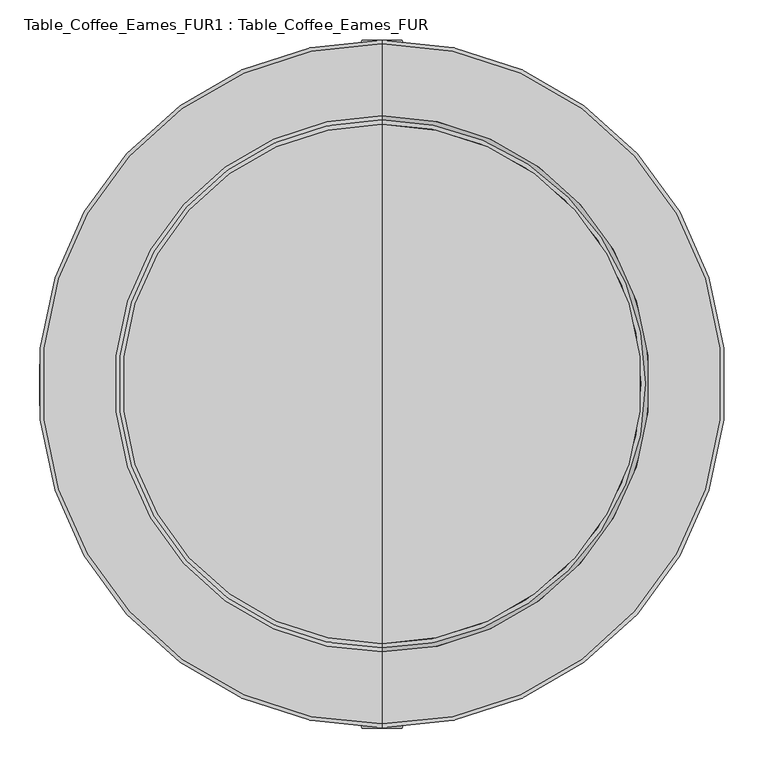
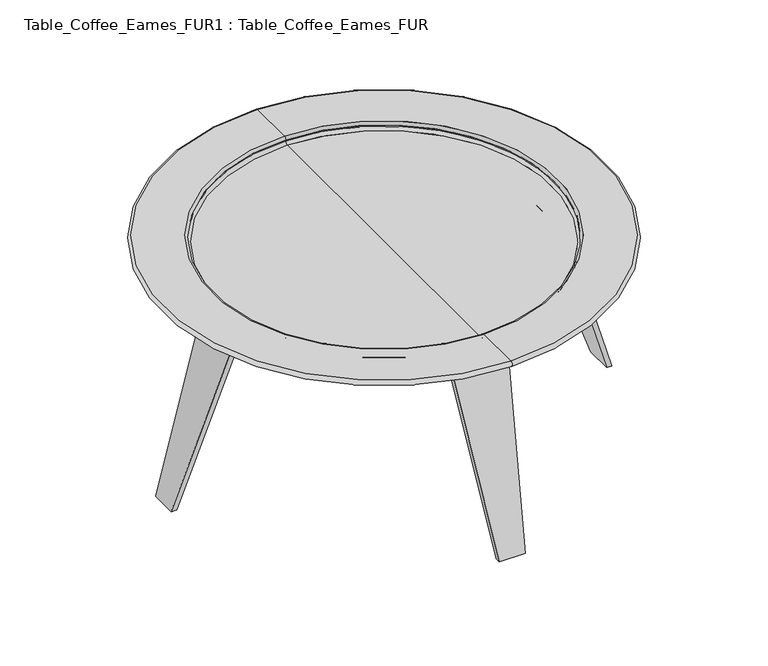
"""IFC4 building model written with IfcOpenShell, lengths in millimetres: furniture geometry, Table_Coffee_Eames_FUR1 : Table_Coffee_Eames_FUR."""

import ifcopenshell
import ifcopenshell.guid

model = None  # the IFC model being written
_history = None  # IfcOwnerHistory: only IFC2X3 demands one
_inside = {}  # id of a spatial element -> (the spatial element, [elements in it])
_under = {}  # id of a project, library or spatial element -> (it, [spatial elements below it])
_declared = {}  # id of a project -> (the project, [libraries it declares])
_typed = {}  # id of a type object -> (the type object, [elements of that type])
_made_of = {}  # id of a material, layer set ... -> (it, [elements and type objects made of it])


def new_model(schema):
    """Start an empty IFC model of exactly this schema.

    Asked for "IFC4X3", IfcOpenShell would pick the latest addendum, in which some entities
    have other attributes; the version numbers below select the first issue.
    IFC2X3 requires an IfcOwnerHistory on every rooted entity: one is made here for all.
    """
    global model, _history
    if schema == "IFC4X3":
        model = ifcopenshell.file(schema_version=(4, 3, 0, 0))
    else:
        model = ifcopenshell.file(schema=schema)
    _inside.clear()
    _under.clear()
    _declared.clear()
    _typed.clear()
    _made_of.clear()
    _history = None
    if model.schema == "IFC2X3":
        org = make("IfcOrganization", Name="unknown")
        user = make(
            "IfcPersonAndOrganization",
            ThePerson=make("IfcPerson", FamilyName="unknown"),
            TheOrganization=org,
        )
        app = make(
            "IfcApplication",
            ApplicationDeveloper=org,
            Version="unknown",
            ApplicationFullName="unknown",
            ApplicationIdentifier="unknown",
        )
        _history = make(
            "IfcOwnerHistory",
            OwningUser=user,
            OwningApplication=app,
            ChangeAction="ADDED",
            CreationDate=0,
        )
    return model


def make(cls, **values):
    """One entity of the class cls with the attributes given. An attribute that is None is left unset."""
    return model.create_entity(
        cls, **{name: value for name, value in values.items() if value is not None}
    )


def rooted(cls, **values):
    """An entity with a GlobalId (a new one), such as an element, a storey or a relation."""
    return make(cls, GlobalId=ifcopenshell.guid.new(), OwnerHistory=_history, **values)


def si_unit(unit_type, name, prefix=None):
    """IfcSIUnit, for example si_unit("LENGTHUNIT", "METRE", prefix="MILLI")."""
    return make("IfcSIUnit", UnitType=unit_type, Prefix=prefix, Name=name)


def assignment(units):
    """IfcUnitAssignment: the units of a project."""
    return None if units is None else make("IfcUnitAssignment", Units=units)


def point(xyz):
    """IfcCartesianPoint."""
    return None if xyz is None else make("IfcCartesianPoint", Coordinates=xyz)


def direction(xyz):
    """IfcDirection."""
    return None if xyz is None else make("IfcDirection", DirectionRatios=xyz)


def frame(location, z_axis=None, x_axis=None):
    """IfcAxis2Placement3D, a coordinate frame: its origin and axes. An axis left out is left unset."""
    return make(
        "IfcAxis2Placement3D",
        Location=point(location),
        Axis=direction(z_axis),
        RefDirection=direction(x_axis),
    )


def origin():
    """The frame at (0, 0, 0) with its axes left unset."""
    return frame((0.0, 0.0, 0.0))


def place(relative_to, where):
    """IfcLocalPlacement: puts the frame where relative to a parent placement (None: the world)."""
    return make(
        "IfcLocalPlacement", PlacementRelTo=relative_to, RelativePlacement=where
    )


def context(
    kind, dimensions, precision=None, world=None, true_north=None, identifier=None
):
    """IfcGeometricRepresentationContext, for example the 3D "Model" context."""
    return make(
        "IfcGeometricRepresentationContext",
        ContextIdentifier=identifier,
        ContextType=kind,
        CoordinateSpaceDimension=dimensions,
        Precision=precision,
        WorldCoordinateSystem=world,
        TrueNorth=true_north,
    )


def project(units=None, contexts=None):
    """IfcProject with its units and contexts."""
    return rooted(
        "IfcProject",
        Name="project",
        RepresentationContexts=contexts,
        UnitsInContext=assignment(units),
    )


def spatial(cls, under=None, at=None, **own):
    """A site, building, storey or space (cls), placed at a placement, below another one or the project."""
    s = rooted(cls, ObjectPlacement=at, **own)
    if under is not None:
        _under.setdefault(under.id(), (under, []))[1].append(s)
    return s


def polyline(points):
    """IfcPolyline through the points."""
    return make("IfcPolyline", Points=[point(p) for p in points])


def circle_curve(where, radius):
    """IfcCircle in the frame where."""
    return make("IfcCircle", Position=where, Radius=radius)


def ellipse_curve(where, semi_axis1, semi_axis2):
    """IfcEllipse in the frame where."""
    return make(
        "IfcEllipse", Position=where, SemiAxis1=semi_axis1, SemiAxis2=semi_axis2
    )


def trimmed(basis, trim1, trim2, sense, master):
    """IfcTrimmedCurve: the piece of a basis curve between two trims."""
    return make(
        "IfcTrimmedCurve",
        BasisCurve=basis,
        Trim1=trim1,
        Trim2=trim2,
        SenseAgreement=sense,
        MasterRepresentation=master,
    )


def shape(context_of_items, identifier, shape_type, items):
    """IfcShapeRepresentation: the items that make up one representation, for example the "Body"."""
    return make(
        "IfcShapeRepresentation",
        ContextOfItems=context_of_items,
        RepresentationIdentifier=identifier,
        RepresentationType=shape_type,
        Items=items,
    )


def source(mapping_origin, context_of_items, identifier, shape_type, items):
    """IfcRepresentationMap: a shape defined once, which mapped items show again and again."""
    return make(
        "IfcRepresentationMap",
        MappingOrigin=mapping_origin,
        MappedRepresentation=shape(context_of_items, identifier, shape_type, items),
    )


def transform(
    local_origin,
    x_axis=None,
    y_axis=None,
    z_axis=None,
    scale=None,
    scale2=None,
    scale3=None,
    uniform=True,
):
    """IfcCartesianTransformationOperator3D, or its non-uniform kind. x_axis, y_axis, z_axis: its Axis1, 2, 3."""
    if uniform:
        return make(
            "IfcCartesianTransformationOperator3D",
            Axis1=direction(x_axis),
            Axis2=direction(y_axis),
            LocalOrigin=point(local_origin),
            Scale=scale,
            Axis3=direction(z_axis),
        )
    return make(
        "IfcCartesianTransformationOperator3DnonUniform",
        Axis1=direction(x_axis),
        Axis2=direction(y_axis),
        LocalOrigin=point(local_origin),
        Scale=scale,
        Axis3=direction(z_axis),
        Scale2=scale2,
        Scale3=scale3,
    )


def mapped(mapping_source, mapping_target):
    """IfcMappedItem: shows the shape of a source again, moved by a transform."""
    return make(
        "IfcMappedItem", MappingSource=mapping_source, MappingTarget=mapping_target
    )


def made_of(thing, what):
    """Note that an element or type object is made of a material, layer set ...; save() writes the relation."""
    if what is not None:
        _made_of.setdefault(what.id(), (what, []))[1].append(thing)
    return thing


def element(
    cls,
    number,
    at=None,
    inside=None,
    cuts=None,
    type_object=None,
    material=None,
    context=None,
    identifier="Body",
    shape_type=None,
    held_by="IfcProductDefinitionShape",
    body=None,
    shapes=None,
    **own,
):
    """One element of the class cls, such as IfcWall. Its Tag is "e" and its number.

    at: its placement. inside: the storey or other place that contains it. cuts: it is an
    opening in that element (IfcRelVoidsElement). A single representation is given by context,
    identifier, shape_type and body (its items); several are given by shapes. held_by: the class
    of the entity that holds the representations. save() writes the other relations.
    """
    e = rooted(cls, Tag="e%d" % number, ObjectPlacement=at, **own)
    if body is not None:
        shapes = [shape(context, identifier, shape_type, body)]
    if shapes is not None:
        e.Representation = make(held_by, Representations=shapes)
    if inside is not None:
        _inside.setdefault(inside.id(), (inside, []))[1].append(e)
    if cuts is not None:
        rooted(
            "IfcRelVoidsElement", RelatingBuildingElement=cuts, RelatedOpeningElement=e
        )
    if type_object is not None:
        _typed.setdefault(type_object.id(), (type_object, []))[1].append(e)
    return made_of(e, material)


def aggregate(whole, parts):
    """IfcRelAggregates: a whole, such as a stair, and the parts it consists of."""
    return rooted("IfcRelAggregates", RelatingObject=whole, RelatedObjects=parts)


def save(model, path):
    """Write the relations noted so far, then the file.

    IfcRelAggregates (storeys below a building ...), IfcRelContainedInSpatialStructure (elements
    in a storey), IfcRelDefinesByType, IfcRelAssociatesMaterial and IfcRelDeclares: one each for
    every whole, place, type object, material and project.
    """
    for whole, parts in _under.values():
        aggregate(whole, parts)
    for where, things in _inside.values():
        rooted(
            "IfcRelContainedInSpatialStructure",
            RelatedElements=things,
            RelatingStructure=where,
        )
    for kind, things in _typed.values():
        rooted("IfcRelDefinesByType", RelatedObjects=things, RelatingType=kind)
    for what, things in _made_of.values():
        rooted("IfcRelAssociatesMaterial", RelatedObjects=things, RelatingMaterial=what)
    for by, libraries in _declared.values():
        rooted("IfcRelDeclares", RelatingContext=by, RelatedDefinitions=libraries)
    model.write(path)


def plane_surface(at):
    """IfcPlane: the flat surface through the origin of the frame at, square to its z axis."""
    return make("IfcPlane", Position=at)


def cylinder_surface(at, radius):
    """IfcCylindricalSurface: all points at the distance radius from the z axis of the frame at."""
    return make("IfcCylindricalSurface", Position=at, Radius=radius)


def revolved_surface(curve, axis_point, axis_direction):
    """IfcSurfaceOfRevolution: the curve turned about the line through axis_point along axis_direction."""
    return make(
        "IfcSurfaceOfRevolution",
        SweptCurve=make("IfcArbitraryOpenProfileDef", ProfileType="CURVE", Curve=curve),
        AxisPosition=make("IfcAxis1Placement", Location=point(axis_point), Axis=direction(axis_direction)),
    )


def advanced_brep(points, edges, surfaces, faces):
    """IfcAdvancedBrep: a solid bounded by faces that lie on surfaces and meet in shared edges.

    An edge is (start, end): straight between two places in points (the first is 0);
    or (start, end, curve); or (start, end, curve, False) where it runs against its curve.
    A face is (place in surfaces, loops), or (place, loops, False) where it looks against
    its surface's normal. A loop lists edges by number (the first is 1), with a minus sign
    where the edge is run from its end to its start. The first loop is the outer one.
    """
    corners = [point(p) for p in points]
    vertices = [make("IfcVertexPoint", VertexGeometry=c) for c in corners]
    made = []
    for start, end, *more in edges:
        made.append(
            make(
                "IfcEdgeCurve",
                EdgeStart=vertices[start],
                EdgeEnd=vertices[end],
                EdgeGeometry=more[0] if more else make("IfcPolyline", Points=[corners[start], corners[end]]),
                SameSense=more[1] if len(more) > 1 else True,
            )
        )
    hull = []
    for where, loops, *sense in faces:
        bounds = []
        for j, loop in enumerate(loops):
            ring = [make("IfcOrientedEdge", EdgeElement=made[abs(k) - 1], Orientation=k > 0) for k in loop]
            bounds.append(
                make(
                    "IfcFaceOuterBound" if j == 0 else "IfcFaceBound",
                    Bound=make("IfcEdgeLoop", EdgeList=ring),
                    Orientation=True,
                )
            )
        hull.append(make("IfcAdvancedFace", Bounds=bounds, FaceSurface=surfaces[where], SameSense=sense[0] if sense else True))
    return make("IfcAdvancedBrep", Outer=make("IfcClosedShell", CfsFaces=hull))


def table_coffee_eames_fur1_table_coffee_eames_fur_7d2e3b92(model_context):
    return source(origin(), model_context, "Body", "AdvancedBrep", [
        advanced_brep(
        [(-326.4095773, 180.4231083, 368.1673239), (-402.4940986, 175.5868539, 312.8886835), (-402.4940986, 68.6870158, 312.8886835), (-326.4095773, 63.8507615, 368.1673239), (171.5955942, 180.4231083, 368.1673239), (171.5955942, 63.8507615, 368.1673239), (247.6801155, 175.5868539, 312.8886835), (247.6801155, 68.6870158, 312.8886835), (349.3438114, 148.2126412, 0.0), (349.3438114, 96.0612286, 0.0), (338.8291892, 148.2126412, 0.0), (338.8291892, 96.0612286, 0.0), (238.1695503, 175.3164991, 309.7985135), (238.1695503, 68.9573707, 309.7985135), (171.5955942, 179.5482217, 358.1673239), (171.5955942, 64.7256481, 358.1673239), (-326.4095773, 179.5482217, 358.1673239), (-326.4095773, 64.7256481, 358.1673239), (-392.9835335, 175.3164991, 309.7985135), (-392.9835335, 68.9573707, 309.7985135), (-493.6431724, 148.2126412, 0.0), (-493.6431724, 96.0612286, 0.0), (-504.1577946, 148.2126412, 0.0), (-504.1577946, 96.0612286, 0.0)],
        [
            (0, 1, ellipse_curve(frame((-326.4095773, 173.4240152, 288.1673239), z_axis=(0.0, -0.9961946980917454, 0.08715574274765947), x_axis=(0.0, 0.08715574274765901, 0.9961946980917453)), 80.305587, 80.0)),
            (1, 2),
            (2, 3, ellipse_curve(frame((-326.4095773, 70.8498545, 288.1673239), z_axis=(0.0, 0.9961946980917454, 0.08715574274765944), x_axis=(0.0, 0.08715574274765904, -0.9961946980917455)), 80.305587, 80.0)),
            (3, 0),
            (4, 0),
            (3, 5),
            (5, 4),
            (6, 4, ellipse_curve(frame((171.5955942, 173.4240152, 288.1673239), z_axis=(0.0, -0.9961946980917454, 0.08715574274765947), x_axis=(0.0, 0.08715574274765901, 0.9961946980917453)), 80.305587, 80.0)),
            (5, 7, ellipse_curve(frame((171.5955942, 70.8498545, 288.1673239), z_axis=(0.0, 0.9961946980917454, 0.08715574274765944), x_axis=(0.0, 0.08715574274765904, -0.9961946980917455)), 80.305587, 80.0)),
            (7, 6),
            (8, 6),
            (7, 9),
            (9, 8),
            (10, 8),
            (9, 11),
            (11, 10),
            (12, 10),
            (11, 13),
            (13, 12),
            (14, 12, ellipse_curve(frame((171.5955942, 173.4240152, 288.1673239), z_axis=(0.0, 0.9961946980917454, -0.08715574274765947), x_axis=(0.0, -0.08715574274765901, -0.9961946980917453)), 70.2673886, 70.0)),
            (13, 15, ellipse_curve(frame((171.5955942, 70.8498545, 288.1673239), z_axis=(0.0, -0.9961946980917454, -0.08715574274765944), x_axis=(0.0, -0.08715574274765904, 0.9961946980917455)), 70.2673886, 70.0)),
            (15, 14),
            (16, 14),
            (15, 17),
            (17, 16),
            (18, 16, ellipse_curve(frame((-326.4095773, 173.4240152, 288.1673239), z_axis=(0.0, 0.9961946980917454, -0.08715574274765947), x_axis=(0.0, -0.08715574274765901, -0.9961946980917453)), 70.2673886, 70.0)),
            (17, 19, ellipse_curve(frame((-326.4095773, 70.8498545, 288.1673239), z_axis=(0.0, -0.9961946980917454, -0.08715574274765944), x_axis=(0.0, -0.08715574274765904, 0.9961946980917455)), 70.2673886, 70.0)),
            (19, 18),
            (20, 18),
            (19, 21),
            (21, 20),
            (22, 20),
            (21, 23),
            (23, 22),
            (1, 22),
            (23, 2),
        ],
        [
            cylinder_surface(frame((-326.4095773, 45.1704954, 288.1673239), z_axis=(0.0, 1.0, 0.0), x_axis=(-1.0, 0.0, 0.0)), 80.0),
            plane_surface(frame((-326.4095773, 202.791268, 368.1673239), z_axis=(0.0, 0.0, 1.0), x_axis=(0.0, -1.0, 0.0))),
            cylinder_surface(frame((171.5955942, 45.1704954, 288.1673239), z_axis=(0.0, 1.0, 0.0), x_axis=(-1.0, 0.0, 0.0)), 80.0),
            plane_surface(frame((247.6801155, 202.791268, 312.8886835), z_axis=(0.9510565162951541, 0.0, 0.3090169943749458), x_axis=(0.0, -1.0, 0.0))),
            plane_surface(frame((349.3438114, 202.791268, 0.0), z_axis=(0.0, 0.0, -1.0), x_axis=(0.0, -1.0, 0.0))),
            plane_surface(frame((338.8291892, 202.791268, 0.0), z_axis=(-0.9510565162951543, 0.0, -0.3090169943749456), x_axis=(0.0, -1.0, 0.0))),
            revolved_surface(polyline([(101.5955942, 64.72564805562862, 288.1673239), (101.5955942, 179.5482217, 288.1673239)]), (171.5955942, 45.1704954, 288.1673239), (0.0, -1.0, 0.0)),
            plane_surface(frame((171.5955942, 202.791268, 358.1673239), z_axis=(0.0, 0.0, -1.0), x_axis=(0.0, -1.0, 0.0))),
            revolved_surface(polyline([(-396.4095773, 64.72564805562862, 288.1673239), (-396.4095773, 179.5482217, 288.1673239)]), (-326.4095773, 45.1704954, 288.1673239), (0.0, -1.0, 0.0)),
            plane_surface(frame((-392.9835335, 202.791268, 309.7985135), z_axis=(0.9510565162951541, 0.0, -0.30901699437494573), x_axis=(0.0, -1.0, 0.0))),
            plane_surface(frame((-493.6431724, 202.791268, 0.0), z_axis=(0.0, 0.0, -1.0), x_axis=(0.0, -1.0, 0.0))),
            plane_surface(frame((-504.1577946, 202.791268, 0.0), z_axis=(-0.9510565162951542, 0.0, 0.3090169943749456), x_axis=(0.0, -1.0, 0.0))),
            plane_surface(frame((474.3875752, 180.4231083, 368.1673239), z_axis=(0.0, 0.9961946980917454, -0.08715574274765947), x_axis=(-1.0, 0.0, 0.0))),
            plane_surface(frame((474.3875752, 96.9361152, -10.0), z_axis=(0.0, -0.9961946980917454, -0.08715574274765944), x_axis=(-1.0, 0.0, 0.0))),
        ],
        [
            (0, [[1, 2, 3, 4]]),
            (1, [[5, -4, 6, 7]]),
            (2, [[8, -7, 9, 10]]),
            (3, [[11, -10, 12, 13]]),
            (4, [[14, -13, 15, 16]]),
            (5, [[17, -16, 18, 19]]),
            (6, [[20, -19, 21, 22]]),
            (7, [[23, -22, 24, 25]]),
            (8, [[26, -25, 27, 28]]),
            (9, [[29, -28, 30, 31]]),
            (10, [[32, -31, 33, 34]]),
            (11, [[35, -34, 36, -2]]),
            (12, [[-1, -5, -8, -11, -14, -17, -20, -23, -26, -29, -32, -35]]),
            (13, [[-3, -36, -33, -30, -27, -24, -21, -18, -15, -12, -9, -6]]),
        ],
    ),
        advanced_brep(
        [(-18.0184727, 372.5885221, 377.3267589), (-22.8547271, 448.6730434, 322.0481185), (-129.6074854, 448.6730434, 322.0481185), (-134.4437398, 372.5885221, 377.3267589), (-18.0184727, -125.9628816, 377.3267589), (-134.4437398, -125.9628816, 377.3267589), (-22.8547271, -202.0474029, 322.0481185), (-129.6074854, -202.0474029, 322.0481185), (-51.0302866, -306.6871798, 0.0), (-101.4319259, -306.6871798, 0.0), (-51.0302866, -296.1725575, 0.0), (-101.4319259, -296.1725575, 0.0), (-23.051542, -192.2637217, 319.7985135), (-129.4106705, -192.2637217, 319.7985135), (-18.8198195, -125.6897655, 368.1673239), (-133.642393, -125.6897655, 368.1673239), (-133.642393, 37.1369349, 368.1673239), (-133.642393, 63.8507615, 368.1673239), (-133.642393, 180.4231083, 368.1673239), (-133.642393, 207.1369349, 368.1673239), (-133.642393, 372.315406, 368.1673239), (-18.8198195, 372.315406, 368.1673239), (-18.8198195, 207.1369349, 368.1673239), (-18.8198195, 180.4231083, 368.1673239), (-18.8198195, 63.8507615, 368.1673239), (-18.8198195, 37.1369349, 368.1673239), (-23.051542, 438.8893621, 319.7985135), (-129.4106705, 438.8893621, 319.7985135), (-51.0302866, 542.798198, 0.0), (-101.4319259, 542.798198, 0.0), (-51.0302866, 553.3128202, 0.0), (-101.4319259, 553.3128202, 0.0)],
        [
            (0, 1, ellipse_curve(frame((-25.0175658, 372.5885221, 297.3267589), z_axis=(-0.9961946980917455, 0.0, 0.08715574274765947), x_axis=(0.08715574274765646, 0.0, 0.9961946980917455)), 80.305587, 80.0)),
            (1, 2),
            (2, 3, ellipse_curve(frame((-127.4446467, 372.5885221, 297.3267589), z_axis=(0.9961946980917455, 0.0, 0.08715574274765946), x_axis=(0.08715574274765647, 0.0, -0.9961946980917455)), 80.305587, 80.0)),
            (3, 0),
            (4, 0),
            (3, 5),
            (5, 4),
            (6, 4, ellipse_curve(frame((-25.0175658, -125.9628816, 297.3267589), z_axis=(-0.9961946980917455, 0.0, 0.08715574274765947), x_axis=(0.08715574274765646, 0.0, 0.9961946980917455)), 80.305587, 80.0)),
            (5, 7, ellipse_curve(frame((-127.4446467, -125.9628816, 297.3267589), z_axis=(0.9961946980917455, 0.0, 0.08715574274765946), x_axis=(0.08715574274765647, 0.0, -0.9961946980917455)), 80.305587, 80.0)),
            (7, 6),
            (8, 6),
            (7, 9),
            (9, 8),
            (10, 8),
            (9, 11),
            (11, 10),
            (12, 10),
            (11, 13),
            (13, 12),
            (14, 12, ellipse_curve(frame((-24.9440259, -125.6897655, 298.1673239), z_axis=(0.9961946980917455, 0.0, -0.08715574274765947), x_axis=(-0.08715574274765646, 0.0, -0.9961946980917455)), 70.2673886, 70.0)),
            (13, 15, ellipse_curve(frame((-127.5181866, -125.6897655, 298.1673239), z_axis=(-0.9961946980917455, 0.0, -0.08715574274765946), x_axis=(-0.08715574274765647, 0.0, 0.9961946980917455)), 70.2673886, 70.0)),
            (15, 14),
            (15, 16),
            (16, 17),
            (17, 18),
            (18, 19),
            (19, 20),
            (20, 21),
            (21, 22),
            (22, 23),
            (23, 24),
            (24, 25),
            (25, 14),
            (26, 21, ellipse_curve(frame((-24.9440259, 372.315406, 298.1673239), z_axis=(0.9961946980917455, 0.0, -0.08715574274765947), x_axis=(-0.08715574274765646, 0.0, -0.9961946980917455)), 70.2673886, 70.0)),
            (20, 27, ellipse_curve(frame((-127.5181866, 372.315406, 298.1673239), z_axis=(-0.9961946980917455, 0.0, -0.08715574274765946), x_axis=(-0.08715574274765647, 0.0, 0.9961946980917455)), 70.2673886, 70.0)),
            (27, 26),
            (28, 26),
            (27, 29),
            (29, 28),
            (30, 28),
            (29, 31),
            (31, 30),
            (1, 30),
            (31, 2),
        ],
        [
            cylinder_surface(frame((-153.1975457, 372.5885221, 297.3267589), z_axis=(1.0, 0.0, 0.0), x_axis=(0.0, 1.0, 0.0)), 80.0),
            plane_surface(frame((4.4232269, 372.5885221, 377.3267589), z_axis=(0.0, 0.0, 1.0), x_axis=(-1.0, 0.0, 0.0))),
            cylinder_surface(frame((-153.1975457, -125.9628816, 297.3267589), z_axis=(1.0, 0.0, 0.0), x_axis=(0.0, 1.0, 0.0)), 80.0),
            plane_surface(frame((4.4232269, -202.0474029, 322.0481185), z_axis=(0.0, -0.9510565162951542, 0.30901699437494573), x_axis=(-1.0, 0.0, 0.0))),
            plane_surface(frame((4.4232269, -306.6871798, 0.0), z_axis=(0.0, 0.0, -1.0), x_axis=(-1.0, 0.0, 0.0))),
            plane_surface(frame((4.4232269, -296.1725575, 0.0), z_axis=(0.0, 0.9510565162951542, -0.3090169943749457), x_axis=(-1.0, 0.0, 0.0))),
            revolved_surface(polyline([(-133.6423930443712, -55.68976549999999, 298.1673239), (-18.819819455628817, -55.68976549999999, 298.1673239)]), (-153.1975457, -125.6897655, 298.1673239), (-1.0, 0.0, 0.0)),
            plane_surface(frame((4.4232269, -125.6897655, 368.1673239), z_axis=(0.0, 0.0, -1.0), x_axis=(-1.0, 0.0, 0.0))),
            revolved_surface(polyline([(-133.6423930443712, 442.315406, 298.1673239), (-18.819819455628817, 442.315406, 298.1673239)]), (-153.1975457, 372.315406, 298.1673239), (-1.0, 0.0, 0.0)),
            plane_surface(frame((4.4232269, 438.8893621, 319.7985135), z_axis=(0.0, -0.9510565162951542, -0.30901699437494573), x_axis=(-1.0, 0.0, 0.0))),
            plane_surface(frame((4.4232269, 542.798198, 0.0), z_axis=(0.0, 0.0, -1.0), x_axis=(-1.0, 0.0, 0.0))),
            plane_surface(frame((4.4232269, 553.3128202, 0.0), z_axis=(0.0, 0.9510565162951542, 0.30901699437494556), x_axis=(-1.0, 0.0, 0.0))),
            plane_surface(frame((-18.0184727, -428.4817465, 377.3267589), z_axis=(0.9961946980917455, 0.0, -0.08715574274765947), x_axis=(0.0, 1.0, 0.0))),
            plane_surface(frame((-100.9944826, -428.4817465, -5.0), z_axis=(-0.9961946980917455, 0.0, -0.08715574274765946), x_axis=(0.0, 1.0, 0.0))),
        ],
        [
            (0, [[1, 2, 3, 4]]),
            (1, [[5, -4, 6, 7]]),
            (2, [[8, -7, 9, 10]]),
            (3, [[11, -10, 12, 13]]),
            (4, [[14, -13, 15, 16]]),
            (5, [[17, -16, 18, 19]]),
            (6, [[20, -19, 21, 22]]),
            (7, [[-22, 23, 24, 25, 26, 27, 28, 29, 30, 31, 32, 33]]),
            (8, [[34, -28, 35, 36]]),
            (9, [[37, -36, 38, 39]]),
            (10, [[40, -39, 41, 42]]),
            (11, [[43, -42, 44, -2]]),
            (12, [[-1, -5, -8, -11, -14, -17, -20, -33, -32, -31, -30, -29, -34, -37, -40, -43]]),
            (13, [[-3, -44, -41, -38, -35, -27, -26, -25, -24, -23, -21, -18, -15, -12, -9, -6]]),
        ],
    ),
        advanced_brep(
        [(-76.2311063, 548.3128202, 400.0), (-76.2311063, -301.6871798, 400.0), (-76.2311063, -211.6871798, 400.0), (-76.2311063, 458.3128202, 400.0), (-76.2311063, 548.3128202, 390.0), (-76.2311063, -301.6871798, 390.0), (-76.2311063, 475.9099368, 390.0), (-76.2311063, -229.2842964, 390.0), (-76.2311063, 461.6040008, 384.7930651), (-76.2311063, -214.9783603, 384.7930651), (-76.2311063, 459.2540109, 382.8211895), (-76.2311063, -212.6283705, 382.8211895), (-76.2311063, 444.3993142, 377.4145221), (-76.2311063, -197.7736738, 377.4145221), (-76.2311063, 123.3128202, 377.4145221), (-76.2311063, 447.7682857, 387.4145221), (-76.2311063, -201.1426452, 387.4145221), (-76.2311063, 123.3128202, 387.4145221), (-76.2311063, 453.3128202, 392.9590566), (-76.2311063, -206.6871798, 392.9590566), (-76.2311063, 453.3128202, 395.0), (-76.2311063, -206.6871798, 395.0)],
        [
            (0, 1, circle_curve(frame((-76.2311063, 123.3128202, 400.0), z_axis=(0.0, 0.0, 1.0), x_axis=(0.0, -1.0, 0.0)), 425.0)),
            (1, 2),
            (2, 3, circle_curve(frame((-76.2311063, 123.3128202, 400.0), z_axis=(0.0, 0.0, -1.0), x_axis=(0.0, -1.0, 0.0)), 335.0)),
            (3, 0),
            (1, 0, circle_curve(frame((-76.2311063, 123.3128202, 400.0), z_axis=(0.0, 0.0, 1.0), x_axis=(0.0, -1.0, 0.0)), 425.0)),
            (3, 2, circle_curve(frame((-76.2311063, 123.3128202, 400.0), z_axis=(0.0, 0.0, -1.0), x_axis=(0.0, -1.0, 0.0)), 335.0)),
            (4, 5, circle_curve(frame((-76.2311063, 123.3128202, 390.0), z_axis=(0.0, 0.0, 1.0), x_axis=(0.0, -1.0, 0.0)), 425.0)),
            (5, 1, circle_curve(frame((-76.2311063, -301.6871798, 395.0), z_axis=(-1.0, 0.0, 0.0), x_axis=(0.0, 1.0, 0.0)), 5.0)),
            (0, 4, circle_curve(frame((-76.2311063, 548.3128202, 395.0), z_axis=(-1.0, 0.0, 0.0), x_axis=(0.0, -1.0, 0.0)), 5.0)),
            (5, 4, circle_curve(frame((-76.2311063, 123.3128202, 390.0), z_axis=(0.0, 0.0, 1.0), x_axis=(0.0, -1.0, 0.0)), 425.0)),
            (6, 7, circle_curve(frame((-76.2311063, 123.3128202, 390.0), z_axis=(0.0, 0.0, 1.0), x_axis=(0.0, -1.0, 0.0)), 352.5971166)),
            (7, 5),
            (4, 6),
            (7, 6, circle_curve(frame((-76.2311063, 123.3128202, 390.0), z_axis=(0.0, 0.0, 1.0), x_axis=(0.0, -1.0, 0.0)), 352.5971166)),
            (8, 9, circle_curve(frame((-76.2311063, 123.3128202, 384.7930651), z_axis=(0.0, 0.0, 1.0), x_axis=(0.0, -1.0, 0.0)), 338.2911805)),
            (9, 7, circle_curve(frame((-76.2311063, -229.2842964, 367.7439144), z_axis=(1.0, 0.0, 0.0), x_axis=(0.0, 1.0, 0.0)), 22.2560856)),
            (6, 8, circle_curve(frame((-76.2311063, 475.9099368, 367.7439144), z_axis=(1.0, 0.0, 0.0), x_axis=(0.0, -1.0, 0.0)), 22.2560856)),
            (9, 8, circle_curve(frame((-76.2311063, 123.3128202, 384.7930651), z_axis=(0.0, 0.0, 1.0), x_axis=(0.0, -1.0, 0.0)), 338.2911805)),
            (10, 11, circle_curve(frame((-76.2311063, 123.3128202, 382.8211895), z_axis=(0.0, 0.0, 1.0), x_axis=(0.0, -1.0, 0.0)), 335.9411907)),
            (11, 9),
            (8, 10),
            (11, 10, circle_curve(frame((-76.2311063, 123.3128202, 382.8211895), z_axis=(0.0, 0.0, 1.0), x_axis=(0.0, -1.0, 0.0)), 335.9411907)),
            (12, 13, circle_curve(frame((-76.2311063, 123.3128202, 377.4145221), z_axis=(0.0, 0.0, 1.0), x_axis=(0.0, -1.0, 0.0)), 321.086494)),
            (13, 11, circle_curve(frame((-76.2311063, -197.7736738, 400.5243276), z_axis=(-1.0, 0.0, 0.0), x_axis=(0.0, 1.0, 0.0)), 23.1098056)),
            (10, 12, circle_curve(frame((-76.2311063, 444.3993142, 400.5243276), z_axis=(-1.0, 0.0, 0.0), x_axis=(0.0, -1.0, 0.0)), 23.1098056)),
            (13, 12, circle_curve(frame((-76.2311063, 123.3128202, 377.4145221), z_axis=(0.0, 0.0, 1.0), x_axis=(0.0, -1.0, 0.0)), 321.086494)),
            (14, 13),
            (12, 14),
            (15, 16, circle_curve(frame((-76.2311063, 123.3128202, 387.4145221), z_axis=(0.0, 0.0, 1.0), x_axis=(0.0, -1.0, 0.0)), 324.4554655)),
            (16, 17),
            (17, 15),
            (16, 15, circle_curve(frame((-76.2311063, 123.3128202, 387.4145221), z_axis=(0.0, 0.0, 1.0), x_axis=(0.0, -1.0, 0.0)), 324.4554655)),
            (18, 19, circle_curve(frame((-76.2311063, 123.3128202, 392.9590566), z_axis=(0.0, 0.0, 1.0), x_axis=(0.0, -1.0, 0.0)), 330.0)),
            (19, 16, circle_curve(frame((-76.2311063, -201.1426452, 392.9590566), z_axis=(1.0, 0.0, 0.0), x_axis=(0.0, 1.0, 0.0)), 5.5445345)),
            (15, 18, circle_curve(frame((-76.2311063, 447.7682857, 392.9590566), z_axis=(1.0, 0.0, 0.0), x_axis=(0.0, -1.0, 0.0)), 5.5445345)),
            (19, 18, circle_curve(frame((-76.2311063, 123.3128202, 392.9590566), z_axis=(0.0, 0.0, 1.0), x_axis=(0.0, -1.0, 0.0)), 330.0)),
            (20, 21, circle_curve(frame((-76.2311063, 123.3128202, 395.0), z_axis=(0.0, 0.0, 1.0), x_axis=(0.0, -1.0, 0.0)), 330.0)),
            (21, 19),
            (18, 20),
            (21, 20, circle_curve(frame((-76.2311063, 123.3128202, 395.0), z_axis=(0.0, 0.0, 1.0), x_axis=(0.0, -1.0, 0.0)), 330.0)),
            (2, 21, circle_curve(frame((-76.2311063, -211.6871798, 395.0), z_axis=(-1.0, 0.0, 0.0), x_axis=(0.0, 1.0, 0.0)), 5.0)),
            (20, 3, circle_curve(frame((-76.2311063, 458.3128202, 395.0), z_axis=(-1.0, 0.0, 0.0), x_axis=(0.0, -1.0, 0.0)), 5.0)),
        ],
        [
            plane_surface(frame((-76.2311063, 123.3128202, 400.0), z_axis=(0.0, 0.0, 1.0), x_axis=(0.0, -1.0, 0.0))),
            revolved_surface(trimmed(ellipse_curve(frame((-76.2311063, -301.6871798, 395.0), z_axis=(1.0, 0.0, 0.0), x_axis=(0.0, 1.0, 0.0)), 5.0, 5.0), [point((-76.2311063, -301.6871798, 400.0))], [point((-76.2311063, -301.6871798, 390.0))], True, "CARTESIAN"), (-76.2311063, 123.3128202, 497.4145221), (0.0, 0.0, -1.0)),
            plane_surface(frame((-76.2311063, 123.3128202, 390.0), z_axis=(0.0, 0.0, -1.0), x_axis=(0.0, -1.0, 0.0))),
            revolved_surface(trimmed(ellipse_curve(frame((-76.2311063, -229.2842964, 367.7439144), z_axis=(-1.0, 0.0, 0.0), x_axis=(0.0, 1.0, 0.0)), 22.2560856, 22.2560856), [point((-76.2311063, -229.2842964, 390.0))], [point((-76.2311063, -214.9783603, 384.7930651))], True, "CARTESIAN"), (-76.2311063, 123.3128202, 497.4145221), (0.0, 0.0, -1.0)),
            revolved_surface(polyline([(-76.2311063, -214.9783603, 384.7930651), (-76.2311063, -212.6283705, 382.8211895)]), (-76.2311063, 123.3128202, 497.4145221), (0.0, 0.0, -1.0)),
            revolved_surface(trimmed(ellipse_curve(frame((-76.2311063, -197.7736738, 400.5243276), z_axis=(1.0, 0.0, 0.0), x_axis=(0.0, 1.0, 0.0)), 23.1098056, 23.1098056), [point((-76.2311063, -212.6283705, 382.8211895))], [point((-76.2311063, -197.7736738, 377.4145221))], True, "CARTESIAN"), (-76.2311063, 123.3128202, 497.4145221), (0.0, 0.0, -1.0)),
            plane_surface(frame((-76.2311063, 123.3128202, 377.4145221), z_axis=(0.0, 0.0, -1.0), x_axis=(0.0, -1.0, 0.0))),
            plane_surface(frame((-76.2311063, 123.3128202, 387.4145221), z_axis=(0.0, 0.0, 1.0), x_axis=(0.0, -1.0, 0.0))),
            revolved_surface(trimmed(ellipse_curve(frame((-76.2311063, -201.1426452, 392.9590566), z_axis=(-1.0, 0.0, 0.0), x_axis=(0.0, 1.0, 0.0)), 5.5445345, 5.5445345), [point((-76.2311063, -201.1426452, 387.4145221))], [point((-76.2311063, -206.6871798, 392.9590566))], True, "CARTESIAN"), (-76.2311063, 123.3128202, 497.4145221), (0.0, 0.0, -1.0)),
            revolved_surface(polyline([(-76.2311063, -206.6871798, 392.9590566), (-76.2311063, -206.6871798, 395.0)]), (-76.2311063, 123.3128202, 497.4145221), (0.0, 0.0, -1.0)),
            revolved_surface(trimmed(ellipse_curve(frame((-76.2311063, -211.6871798, 395.0), z_axis=(1.0, 0.0, 0.0), x_axis=(0.0, 1.0, 0.0)), 5.0, 5.0), [point((-76.2311063, -206.6871798, 395.0))], [point((-76.2311063, -211.6871798, 400.0))], True, "CARTESIAN"), (-76.2311063, 123.3128202, 497.4145221), (0.0, 0.0, -1.0)),
        ],
        [
            (0, [[1, 2, 3, 4]]),
            (0, [[5, -4, 6, -2]]),
            (1, [[7, 8, -1, 9]]),
            (1, [[10, -9, -5, -8]]),
            (2, [[11, 12, -7, 13]]),
            (2, [[14, -13, -10, -12]]),
            (3, [[15, 16, -11, 17]]),
            (3, [[18, -17, -14, -16]]),
            (4, [[19, 20, -15, 21]]),
            (4, [[22, -21, -18, -20]]),
            (5, [[23, 24, -19, 25]]),
            (5, [[26, -25, -22, -24]]),
            (6, [[27, -23, 28]]),
            (6, [[-28, -26, -27]]),
            (7, [[29, 30, 31]]),
            (7, [[32, -31, -30]]),
            (8, [[33, 34, -29, 35]]),
            (8, [[36, -35, -32, -34]]),
            (9, [[37, 38, -33, 39]]),
            (9, [[40, -39, -36, -38]]),
            (10, [[-3, 41, -37, 42]]),
            (10, [[-6, -42, -40, -41]]),
        ],
    ),
    ])


if __name__ == "__main__":
    model = new_model("IFC4")
    model_context = context("Model", 3, world=origin())
    ifc_project = project(units=[si_unit("LENGTHUNIT", "METRE", prefix="MILLI")], contexts=[model_context])
    site = spatial("IfcSite", under=ifc_project)
    building = spatial("IfcBuilding", under=site)
    placement = place(None, origin())
    table_coffee_eames_fur1_table_coffee_eames_fur_shape = table_coffee_eames_fur1_table_coffee_eames_fur_7d2e3b92(model_context)
    element("IfcFurniture", 1, ObjectType="Table_Coffee_Eames_FUR1 : Table_Coffee_Eames_FUR", at=placement, inside=building, context=model_context, shape_type="MappedRepresentation", body=[
        mapped(table_coffee_eames_fur1_table_coffee_eames_fur_shape, transform((0.0, 0.0, 0.0), x_axis=(1.0, 0.0, 0.0), y_axis=(0.0, 1.0, 0.0), z_axis=(0.0, 0.0, 1.0))),
    ])
    save(model, "model.ifc")
